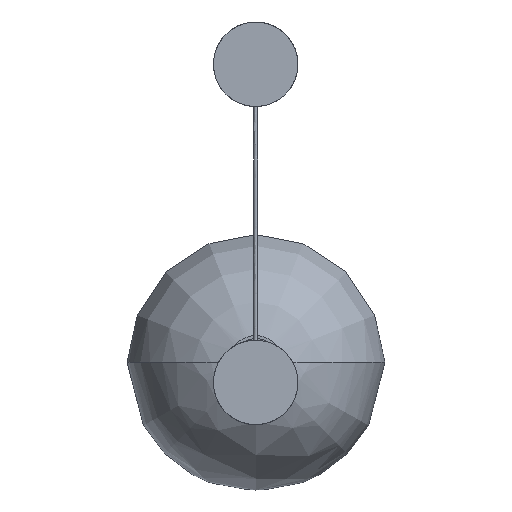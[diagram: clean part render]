
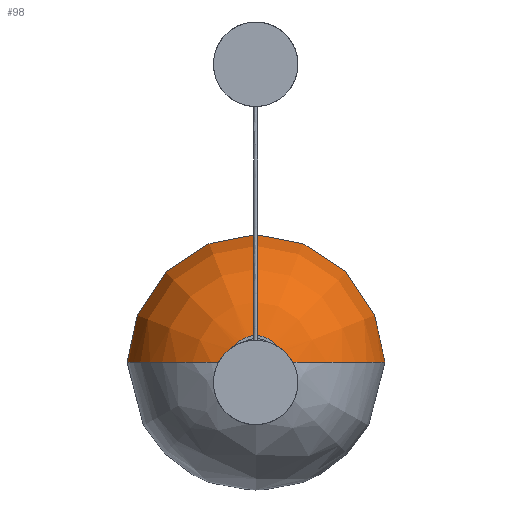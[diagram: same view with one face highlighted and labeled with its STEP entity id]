
A CAD part, top view. The second image highlights one B-rep face of the part: STEP entity #98.
In plain terms, the highlighted free-form (B-spline) face has degree [2, 2] with [5, 5] control points.
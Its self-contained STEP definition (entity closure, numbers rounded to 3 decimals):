
#98=ADVANCED_FACE($,(#134),#492,.T.);
#134=FACE_OUTER_BOUND($,#170,.T.);
#170=EDGE_LOOP($,(#262,#263,#264,#265));
#262=ORIENTED_EDGE($,*,*,#358,.T.);
#263=ORIENTED_EDGE($,*,*,#357,.F.);
#264=ORIENTED_EDGE($,*,*,#359,.T.);
#265=ORIENTED_EDGE($,*,*,#355,.F.);
#355=EDGE_CURVE($,#430,#431,#538,.T.);
#357=EDGE_CURVE($,#432,#429,#540,.T.);
#358=EDGE_CURVE($,#430,#429,#541,.T.);
#359=EDGE_CURVE($,#432,#431,#542,.T.);
#429=VERTEX_POINT($,#1331);
#430=VERTEX_POINT($,#1332);
#431=VERTEX_POINT($,#1333);
#432=VERTEX_POINT($,#1334);
#492=(
BOUNDED_SURFACE()
B_SPLINE_SURFACE(2,2,((#1305,#1306,#1307,#1308,#1309),(#1310,#1311,#1312,
#1313,#1314),(#1315,#1316,#1317,#1318,#1319),(#1320,#1321,#1322,#1323,#1324),
(#1325,#1326,#1327,#1328,#1329)),.UNSPECIFIED.,.F.,.F.,.F.)
B_SPLINE_SURFACE_WITH_KNOTS((3,2,3),(3,2,3),(0.,124.819,249.638),
(0.,249.638,499.276),.UNSPECIFIED.)
GEOMETRIC_REPRESENTATION_ITEM()
RATIONAL_B_SPLINE_SURFACE(((1.,0.811,1.,0.811,1.),
(0.707,0.574,0.707,0.574,
0.707),(1.,0.811,1.,0.811,1.),(0.707,
0.574,0.707,0.574,0.707),
(1.,0.811,1.,0.811,1.)))
REPRESENTATION_ITEM($)
SURFACE()
);
#538=(
BOUNDED_CURVE()
B_SPLINE_CURVE(2,(#1255,#1256,#1257,#1258,#1259),.UNSPECIFIED.,.F.,.F.)
B_SPLINE_CURVE_WITH_KNOTS((3,2,3),(0.,249.638,499.276),
.UNSPECIFIED.)
CURVE()
GEOMETRIC_REPRESENTATION_ITEM()
RATIONAL_B_SPLINE_CURVE((1.,0.811,1.,0.811,1.))
REPRESENTATION_ITEM($)
);
#540=(
BOUNDED_CURVE()
B_SPLINE_CURVE(2,(#1265,#1266,#1267,#1268,#1269),.UNSPECIFIED.,.F.,.F.)
B_SPLINE_CURVE_WITH_KNOTS((3,2,3),(-499.276,-249.638,0.),
.UNSPECIFIED.)
CURVE()
GEOMETRIC_REPRESENTATION_ITEM()
RATIONAL_B_SPLINE_CURVE((1.,0.811,1.,0.811,1.))
REPRESENTATION_ITEM($)
);
#541=(
BOUNDED_CURVE()
B_SPLINE_CURVE(2,(#1270,#1271,#1272,#1273,#1274),.UNSPECIFIED.,.F.,.F.)
B_SPLINE_CURVE_WITH_KNOTS((3,2,3),(0.,124.819,249.638),
.UNSPECIFIED.)
CURVE()
GEOMETRIC_REPRESENTATION_ITEM()
RATIONAL_B_SPLINE_CURVE((1.,0.707,1.,0.707,1.))
REPRESENTATION_ITEM($)
);
#542=(
BOUNDED_CURVE()
B_SPLINE_CURVE(2,(#1275,#1276,#1277,#1278,#1279),.UNSPECIFIED.,.F.,.F.)
B_SPLINE_CURVE_WITH_KNOTS((3,2,3),(-249.638,-124.819,0.),
.UNSPECIFIED.)
CURVE()
GEOMETRIC_REPRESENTATION_ITEM()
RATIONAL_B_SPLINE_CURVE((1.,0.707,1.,0.707,1.))
REPRESENTATION_ITEM($)
);
#1255=CARTESIAN_POINT($,(-36.,123.874,-541.879));
#1256=CARTESIAN_POINT($,(-177.735,123.874,-567.443));
#1257=CARTESIAN_POINT($,(-198.426,123.874,-709.97));
#1258=CARTESIAN_POINT($,(-219.117,123.874,-852.498));
#1259=CARTESIAN_POINT($,(-90.502,123.874,-917.309));
#1265=CARTESIAN_POINT($,(91.51,123.874,-917.309));
#1266=CARTESIAN_POINT($,(220.125,123.874,-852.498));
#1267=CARTESIAN_POINT($,(199.435,123.874,-709.97));
#1268=CARTESIAN_POINT($,(178.744,123.874,-567.443));
#1269=CARTESIAN_POINT($,(37.009,123.874,-541.879));
#1270=CARTESIAN_POINT($,(-36.,123.874,-541.879));
#1271=CARTESIAN_POINT($,(-36.,160.379,-541.879));
#1272=CARTESIAN_POINT($,(0.504,160.379,-541.879));
#1273=CARTESIAN_POINT($,(37.009,160.379,-541.879));
#1274=CARTESIAN_POINT($,(37.009,123.874,-541.879));
#1275=CARTESIAN_POINT($,(91.51,123.874,-917.309));
#1276=CARTESIAN_POINT($,(91.51,214.88,-917.309));
#1277=CARTESIAN_POINT($,(0.504,214.88,-917.309));
#1278=CARTESIAN_POINT($,(-90.502,214.88,-917.309));
#1279=CARTESIAN_POINT($,(-90.502,123.874,-917.309));
#1305=CARTESIAN_POINT($,(-36.,123.874,-541.879));
#1306=CARTESIAN_POINT($,(-177.735,123.874,-567.443));
#1307=CARTESIAN_POINT($,(-198.426,123.874,-709.97));
#1308=CARTESIAN_POINT($,(-219.117,123.874,-852.498));
#1309=CARTESIAN_POINT($,(-90.502,123.874,-917.309));
#1310=CARTESIAN_POINT($,(-36.,160.379,-541.879));
#1311=CARTESIAN_POINT($,(-177.735,302.114,-567.443));
#1312=CARTESIAN_POINT($,(-198.426,322.805,-709.97));
#1313=CARTESIAN_POINT($,(-219.117,343.496,-852.498));
#1314=CARTESIAN_POINT($,(-90.502,214.88,-917.309));
#1315=CARTESIAN_POINT($,(0.504,160.379,-541.879));
#1316=CARTESIAN_POINT($,(0.504,302.114,-567.443));
#1317=CARTESIAN_POINT($,(0.504,322.805,-709.97));
#1318=CARTESIAN_POINT($,(0.504,343.496,-852.498));
#1319=CARTESIAN_POINT($,(0.504,214.88,-917.309));
#1320=CARTESIAN_POINT($,(37.009,160.379,-541.879));
#1321=CARTESIAN_POINT($,(178.744,302.114,-567.443));
#1322=CARTESIAN_POINT($,(199.435,322.805,-709.97));
#1323=CARTESIAN_POINT($,(220.125,343.496,-852.498));
#1324=CARTESIAN_POINT($,(91.51,214.88,-917.309));
#1325=CARTESIAN_POINT($,(37.009,123.874,-541.879));
#1326=CARTESIAN_POINT($,(178.744,123.874,-567.443));
#1327=CARTESIAN_POINT($,(199.435,123.874,-709.97));
#1328=CARTESIAN_POINT($,(220.125,123.874,-852.498));
#1329=CARTESIAN_POINT($,(91.51,123.874,-917.309));
#1331=CARTESIAN_POINT($,(37.009,123.874,-541.879));
#1332=CARTESIAN_POINT($,(-36.,123.874,-541.879));
#1333=CARTESIAN_POINT($,(-90.502,123.874,-917.309));
#1334=CARTESIAN_POINT($,(91.51,123.874,-917.309));
